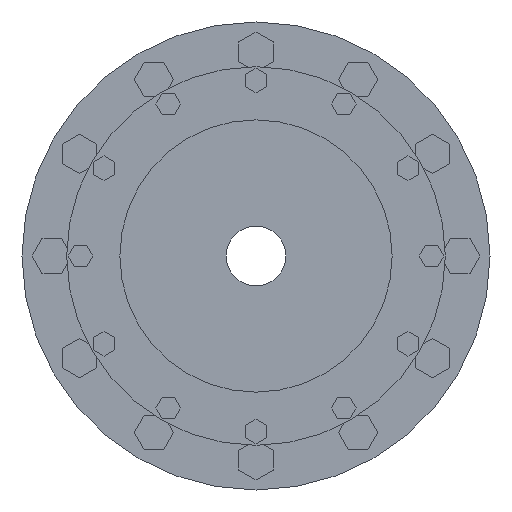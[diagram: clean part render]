
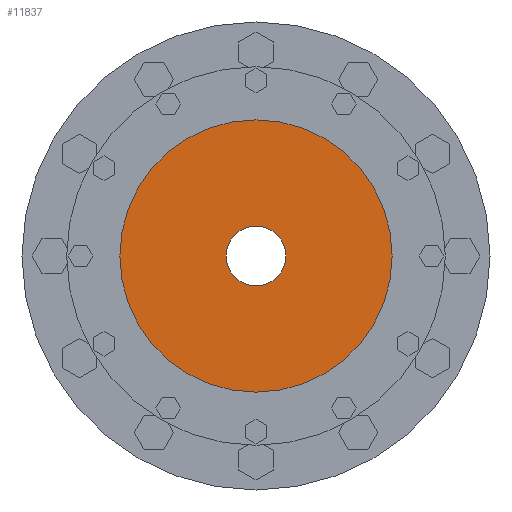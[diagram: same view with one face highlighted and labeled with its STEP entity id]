
A CAD part, left-side view. The second image highlights one B-rep face of the part: STEP entity #11837.
In plain terms, the highlighted planar face has unit normal (-1, 0, 0) as drawn and (1, 0, 0) by its records, which use the part's own axes.
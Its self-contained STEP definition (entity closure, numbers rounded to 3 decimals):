
#11661=CARTESIAN_POINT('',(-3.,0.,0.));
#11662=DIRECTION('',(1.,0.,0.));
#11663=DIRECTION('',(0.,1.,0.));
#11664=AXIS2_PLACEMENT_3D('',#11661,#11662,#11663);
#11671=CARTESIAN_POINT('',(-3.,0.,0.));
#11672=DIRECTION('',(-1.,0.,0.));
#11673=DIRECTION('',(0.,1.,0.));
#11674=AXIS2_PLACEMENT_3D('',#11671,#11672,#11673);
#11676=CARTESIAN_POINT('',(-3.,0.,0.));
#11677=DIRECTION('',(1.,0.,0.));
#11678=DIRECTION('',(0.,1.,0.));
#11679=AXIS2_PLACEMENT_3D('',#11676,#11677,#11678);
#11755=CARTESIAN_POINT('',(-3.,0.,0.));
#11756=DIRECTION('',(1.,0.,0.));
#11757=DIRECTION('',(0.,-1.,0.));
#11758=AXIS2_PLACEMENT_3D('',#11755,#11756,#11757);
#11782=CARTESIAN_POINT('',(-3.,64.,0.));
#11784=VERTEX_POINT('',#11782);
#11786=CARTESIAN_POINT('',(-3.,-64.,0.));
#11788=VERTEX_POINT('',#11786);
#11793=CARTESIAN_POINT('',(-3.,14.,0.));
#11794=CARTESIAN_POINT('',(-3.,-14.,0.));
#11795=VERTEX_POINT('',#11793);
#11796=VERTEX_POINT('',#11794);
#11821=CARTESIAN_POINT('',(-3.,0.,0.));
#11822=DIRECTION('',(1.,0.,0.));
#11823=DIRECTION('',(0.,-1.,0.));
#11824=AXIS2_PLACEMENT_3D('',#11821,#11822,#11823);
#11825=PLANE('',#11824);
#11827=ORIENTED_EDGE('',*,*,#11826,.T.);
#11829=ORIENTED_EDGE('',*,*,#11828,.F.);
#11830=EDGE_LOOP('',(#11827,#11829));
#11831=FACE_OUTER_BOUND('',#11830,.F.);
#11832=ORIENTED_EDGE('',*,*,#11810,.T.);
#11834=ORIENTED_EDGE('',*,*,#11833,.T.);
#11835=EDGE_LOOP('',(#11832,#11834));
#11836=FACE_BOUND('',#11835,.F.);
#11837=ADVANCED_FACE('',(#11831,#11836),#11825,.T.);
#11665=CIRCLE('',#11664,14.);
#11675=CIRCLE('',#11674,64.);
#11680=CIRCLE('',#11679,64.);
#11759=CIRCLE('',#11758,14.);
#11810=EDGE_CURVE('',#11795,#11796,#11665,.T.);
#11826=EDGE_CURVE('',#11784,#11788,#11675,.T.);
#11828=EDGE_CURVE('',#11784,#11788,#11680,.T.);
#11833=EDGE_CURVE('',#11796,#11795,#11759,.T.);
